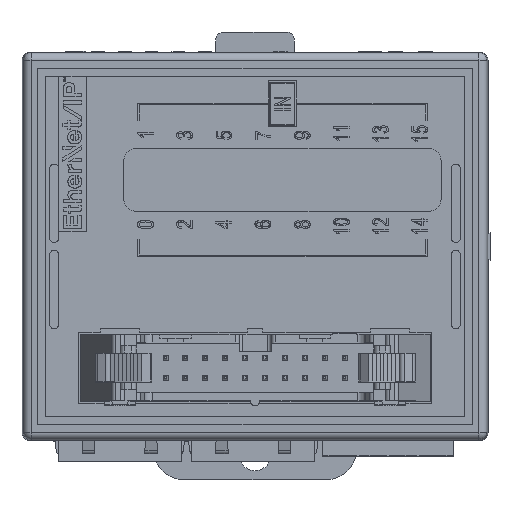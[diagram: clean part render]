
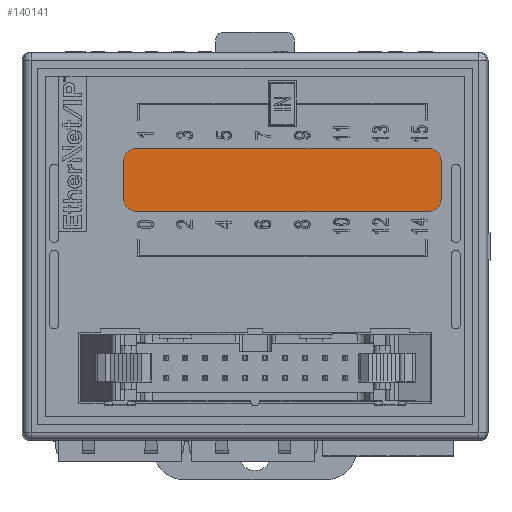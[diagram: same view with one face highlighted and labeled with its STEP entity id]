
A CAD part, top view. The second image highlights one B-rep face of the part: STEP entity #140141.
In plain terms, the highlighted planar face has unit normal (0, 0, 1).
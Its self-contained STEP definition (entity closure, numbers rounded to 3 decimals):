
#39270=DIRECTION('',(-1.,0.,0.));
#39271=VECTOR('',#39270,37.5);
#39272=CARTESIAN_POINT('',(22.25,12.5,30.9));
#39273=LINE('',#39272,#39271);
#39274=CARTESIAN_POINT('',(22.25,11.,30.9));
#39275=DIRECTION('',(0.,0.,1.));
#39276=DIRECTION('',(1.,0.,0.));
#39277=AXIS2_PLACEMENT_3D('',#39274,#39275,#39276);
#39279=DIRECTION('',(0.,1.,0.));
#39280=VECTOR('',#39279,5.);
#39281=CARTESIAN_POINT('',(23.75,6.,30.9));
#39282=LINE('',#39281,#39280);
#39283=CARTESIAN_POINT('',(22.25,6.,30.9));
#39284=DIRECTION('',(0.,0.,1.));
#39285=DIRECTION('',(0.,-1.,0.));
#39286=AXIS2_PLACEMENT_3D('',#39283,#39284,#39285);
#39288=DIRECTION('',(1.,0.,0.));
#39289=VECTOR('',#39288,37.5);
#39290=CARTESIAN_POINT('',(-15.25,4.5,30.9));
#39291=LINE('',#39290,#39289);
#39292=CARTESIAN_POINT('',(-15.25,6.,30.9));
#39293=DIRECTION('',(0.,0.,1.));
#39294=DIRECTION('',(-1.,0.,0.));
#39295=AXIS2_PLACEMENT_3D('',#39292,#39293,#39294);
#39297=DIRECTION('',(0.,-1.,0.));
#39298=VECTOR('',#39297,5.);
#39299=CARTESIAN_POINT('',(-16.75,11.,30.9));
#39300=LINE('',#39299,#39298);
#39301=CARTESIAN_POINT('',(-15.25,11.,30.9));
#39302=DIRECTION('',(0.,0.,1.));
#39303=DIRECTION('',(0.,1.,0.));
#39304=AXIS2_PLACEMENT_3D('',#39301,#39302,#39303);
#55067=CARTESIAN_POINT('',(-15.25,12.5,30.9));
#55068=VERTEX_POINT('',#55067);
#55069=CARTESIAN_POINT('',(22.25,12.5,30.9));
#55070=VERTEX_POINT('',#55069);
#55071=CARTESIAN_POINT('',(23.75,11.,30.9));
#55072=VERTEX_POINT('',#55071);
#55073=CARTESIAN_POINT('',(23.75,6.,30.9));
#55074=VERTEX_POINT('',#55073);
#55075=CARTESIAN_POINT('',(22.25,4.5,30.9));
#55076=VERTEX_POINT('',#55075);
#55077=CARTESIAN_POINT('',(-15.25,4.5,30.9));
#55078=VERTEX_POINT('',#55077);
#55079=CARTESIAN_POINT('',(-16.75,6.,30.9));
#55080=VERTEX_POINT('',#55079);
#55081=CARTESIAN_POINT('',(-16.75,11.,30.9));
#55082=VERTEX_POINT('',#55081);
#140126=CARTESIAN_POINT('',(3.5,8.5,30.9));
#140127=DIRECTION('',(0.,0.,1.));
#140128=DIRECTION('',(1.,0.,0.));
#140129=AXIS2_PLACEMENT_3D('',#140126,#140127,#140128);
#140130=PLANE('',#140129);
#140131=ORIENTED_EDGE('',*,*,#139966,.F.);
#140132=ORIENTED_EDGE('',*,*,#139988,.F.);
#140133=ORIENTED_EDGE('',*,*,#140009,.F.);
#140134=ORIENTED_EDGE('',*,*,#140030,.F.);
#140135=ORIENTED_EDGE('',*,*,#140051,.F.);
#140136=ORIENTED_EDGE('',*,*,#140072,.F.);
#140137=ORIENTED_EDGE('',*,*,#140093,.F.);
#140138=ORIENTED_EDGE('',*,*,#140113,.F.);
#140139=EDGE_LOOP('',(#140131,#140132,#140133,#140134,#140135,#140136,#140137,
#140138));
#140140=FACE_OUTER_BOUND('',#140139,.F.);
#140141=ADVANCED_FACE('',(#140140),#140130,.T.);
#39278=CIRCLE('',#39277,1.5);
#39287=CIRCLE('',#39286,1.5);
#39296=CIRCLE('',#39295,1.5);
#39305=CIRCLE('',#39304,1.5);
#139966=EDGE_CURVE('',#55070,#55068,#39273,.T.);
#139988=EDGE_CURVE('',#55072,#55070,#39278,.T.);
#140009=EDGE_CURVE('',#55074,#55072,#39282,.T.);
#140030=EDGE_CURVE('',#55076,#55074,#39287,.T.);
#140051=EDGE_CURVE('',#55078,#55076,#39291,.T.);
#140072=EDGE_CURVE('',#55080,#55078,#39296,.T.);
#140093=EDGE_CURVE('',#55082,#55080,#39300,.T.);
#140113=EDGE_CURVE('',#55068,#55082,#39305,.T.);
